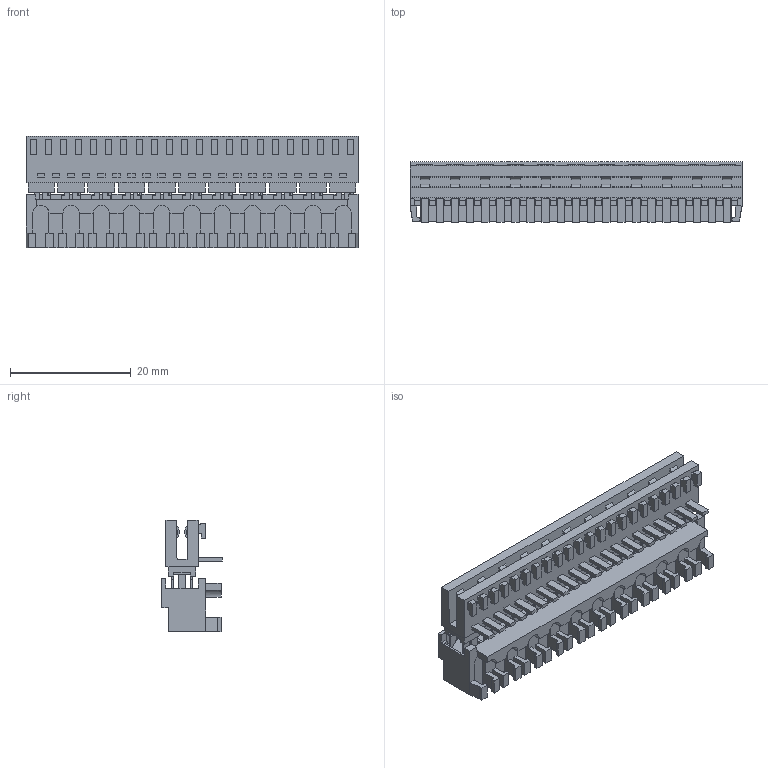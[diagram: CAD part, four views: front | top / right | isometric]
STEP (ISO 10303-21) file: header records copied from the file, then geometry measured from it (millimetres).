
FILE_DESCRIPTION(/* description */ (''),/* implementation_level */ '2;1');
FILE_NAME(/* name */ '916279001wbm000_03_214.stp',/* time_stamp */ '2024-06-17T09:24:46+06:00',/* author */ (''),/* organization */ (''),/* preprocessor_version */ 'ST-DEVELOPER v16.7',/* originating_system */ 'SIEMENS PLM Software NX 1919',/* authorisation */ '');
FILE_SCHEMA (('AUTOMOTIVE_DESIGN { 1 0 10303 214 3 1 1 1 }'));
Length unit declared in the file: millimetre
Products named in the file (1): 916279001wbm000_03
Bounding box: 54.9 x 10 x 18.5 mm (x, y, z)
Volume: 4804.5 mm3; surface area: 6654.1 mm2
Topology: 1 solids, 1 shells, 1521 faces, 4532 edges, 3014 vertices
Faces by surface type: plane 1268, cylinder 253
Entity records: 50766 total; most frequent: CARTESIAN_POINT 9068, ORIENTED_EDGE 9064, DIRECTION 8084, EDGE_CURVE 4532, LINE 4024, VECTOR 4024, VERTEX_POINT 3014, AXIS2_PLACEMENT_3D 2030
